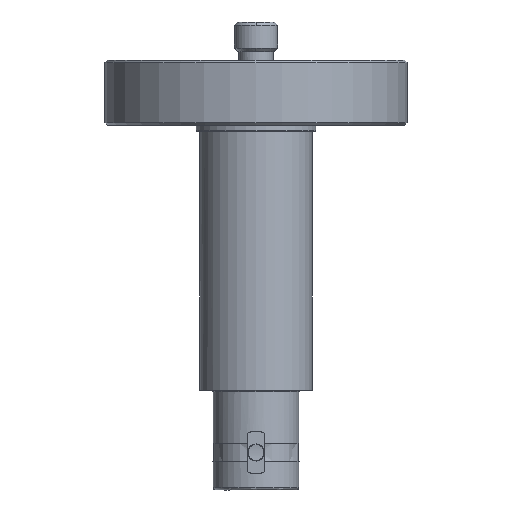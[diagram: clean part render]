
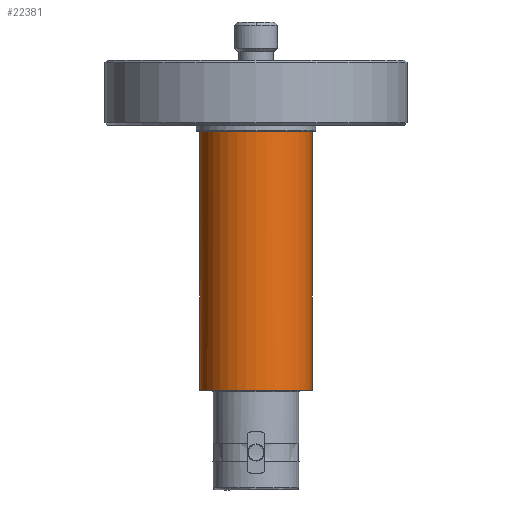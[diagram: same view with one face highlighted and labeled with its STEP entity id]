
A CAD part, front view. The second image highlights one B-rep face of the part: STEP entity #22381.
In plain terms, the highlighted cylindrical face has radius 6.287 mm (diameter 12.573 mm), a partial arc.
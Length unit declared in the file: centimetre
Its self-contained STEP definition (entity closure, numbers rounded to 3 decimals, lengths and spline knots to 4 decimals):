
#179 = VERTEX_POINT ( 'NONE', #2470 ) ;
#180 = VERTEX_POINT ( 'NONE', #2367 ) ;
#181 = VERTEX_POINT ( 'NONE', #2695 ) ;
#281 = VERTEX_POINT ( 'NONE', #2182 ) ;
#1019 = CIRCLE ( 'NONE', #13340, 0.6286 ) ;
#1132 = CIRCLE ( 'NONE', #13481, 0.6286 ) ;
#1143 = CIRCLE ( 'NONE', #13503, 0.6286 ) ;
#2182 = CARTESIAN_POINT ( 'NONE',  ( 0., -0.6287, -3.6868 ) ) ;
#2367 = CARTESIAN_POINT ( 'NONE',  ( -0.6286, 0., -0.7976 ) ) ;
#2470 = CARTESIAN_POINT ( 'NONE',  ( 0.6286, 0., -3.6868 ) ) ;
#2695 = CARTESIAN_POINT ( 'NONE',  ( -0.6286, 0., -3.6868 ) ) ;
#2947 = CARTESIAN_POINT ( 'NONE',  ( 0., 0., -0.7976 ) ) ;
#2948 = DIRECTION ( 'NONE',  ( 0., 0., 1. ) ) ;
#2949 = DIRECTION ( 'NONE',  ( 0.762, 0.647, 0. ) ) ;
#3006 = CARTESIAN_POINT ( 'NONE',  ( 0., 0., -3.6868 ) ) ;
#3007 = DIRECTION ( 'NONE',  ( 0., 0., 1. ) ) ;
#3008 = DIRECTION ( 'NONE',  ( 1., 0., 0. ) ) ;
#5983 = CIRCLE ( 'NONE', #33540, 0.6286 ) ;
#6583 = EDGE_CURVE ( 'NONE', #281, #179, #5983, .T. ) ;
#6682 = EDGE_CURVE ( 'NONE', #179, #25653, #44757, .T. ) ;
#6755 = EDGE_CURVE ( 'NONE', #181, #180, #44841, .T. ) ;
#7432 = EDGE_LOOP ( 'NONE', ( #35195, #35187, #35092, #35296, #35173, #35510 ) ) ;
#13340 = AXIS2_PLACEMENT_3D ( 'NONE', #38918, #38919, #38920 ) ;
#13481 = AXIS2_PLACEMENT_3D ( 'NONE', #2947, #2948, #2949 ) ;
#13503 = AXIS2_PLACEMENT_3D ( 'NONE', #3006, #3007, #3008 ) ;
#15924 = DIRECTION ( 'NONE',  ( 1., 0., 0. ) ) ;
#15926 = DIRECTION ( 'NONE',  ( 0., 0., 1. ) ) ;
#15928 = CARTESIAN_POINT ( 'NONE',  ( 0., 0., -1.1074 ) ) ;
#22381 = ADVANCED_FACE ( 'NONE', ( #45172 ), #45176, .T. ) ;
#24459 = VERTEX_POINT ( 'NONE', #28543 ) ;
#25653 = VERTEX_POINT ( 'NONE', #28755 ) ;
#27303 = EDGE_CURVE ( 'NONE', #24459, #25653, #1019, .T. ) ;
#27658 = EDGE_CURVE ( 'NONE', #180, #24459, #1132, .T. ) ;
#27669 = EDGE_CURVE ( 'NONE', #181, #281, #1143, .T. ) ;
#27821 = AXIS2_PLACEMENT_3D ( 'NONE', #15928, #15926, #15924 ) ;
#28543 = CARTESIAN_POINT ( 'NONE',  ( -0.4791, -0.407, -0.7976 ) ) ;
#28755 = CARTESIAN_POINT ( 'NONE',  ( 0.6286, 0., -0.7976 ) ) ;
#31587 = CARTESIAN_POINT ( 'NONE',  ( 0., 0., -3.6868 ) ) ;
#31589 = DIRECTION ( 'NONE',  ( 0., 0., 1. ) ) ;
#31591 = DIRECTION ( 'NONE',  ( 1., 0., 0. ) ) ;
#33207 = DIRECTION ( 'NONE',  ( 0., 0., 1. ) ) ;
#33212 = CARTESIAN_POINT ( 'NONE',  ( 0.6286, 0., -1.1074 ) ) ;
#33464 = DIRECTION ( 'NONE',  ( 0., 0., 1. ) ) ;
#33472 = CARTESIAN_POINT ( 'NONE',  ( -0.6286, 0., -1.1074 ) ) ;
#33540 = AXIS2_PLACEMENT_3D ( 'NONE', #31587, #31589, #31591 ) ;
#35092 = ORIENTED_EDGE ( 'NONE', *, *, #6583, .T. ) ;
#35173 = ORIENTED_EDGE ( 'NONE', *, *, #27303, .F. ) ;
#35187 = ORIENTED_EDGE ( 'NONE', *, *, #27669, .T. ) ;
#35195 = ORIENTED_EDGE ( 'NONE', *, *, #6755, .F. ) ;
#35296 = ORIENTED_EDGE ( 'NONE', *, *, #6682, .T. ) ;
#35510 = ORIENTED_EDGE ( 'NONE', *, *, #27658, .F. ) ;
#38918 = CARTESIAN_POINT ( 'NONE',  ( 0., 0., -0.7976 ) ) ;
#38919 = DIRECTION ( 'NONE',  ( 0., 0., 1. ) ) ;
#38920 = DIRECTION ( 'NONE',  ( 0.762, 0.647, 0. ) ) ;
#44757 = LINE ( 'NONE', #33212, #44759 ) ;
#44759 = VECTOR ( 'NONE', #33207, 100. ) ;
#44841 = LINE ( 'NONE', #33472, #44843 ) ;
#44843 = VECTOR ( 'NONE', #33464, 100. ) ;
#45172 = FACE_OUTER_BOUND ( 'NONE', #7432, .T. ) ;
#45176 = CYLINDRICAL_SURFACE ( 'NONE', #27821, 0.6286 ) ;
